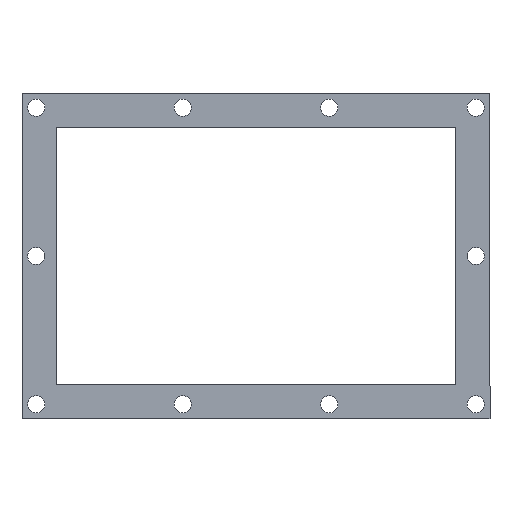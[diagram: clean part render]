
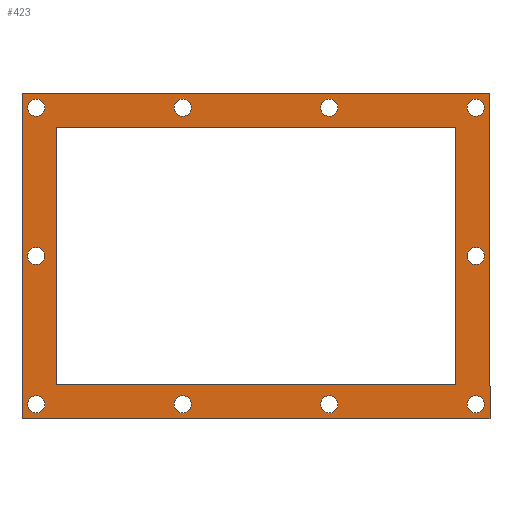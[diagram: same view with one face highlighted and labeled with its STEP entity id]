
A CAD part, top view. The second image highlights one B-rep face of the part: STEP entity #423.
In plain terms, the highlighted planar face has unit normal (0, 0, 1).
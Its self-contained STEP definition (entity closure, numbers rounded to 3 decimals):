
#15=FACE_BOUND('',#86,.T.);
#16=FACE_BOUND('',#87,.T.);
#17=FACE_BOUND('',#88,.T.);
#18=FACE_BOUND('',#89,.T.);
#19=FACE_BOUND('',#90,.T.);
#20=FACE_BOUND('',#91,.T.);
#21=FACE_BOUND('',#92,.T.);
#22=FACE_BOUND('',#93,.T.);
#23=FACE_BOUND('',#94,.T.);
#24=FACE_BOUND('',#95,.T.);
#25=FACE_BOUND('',#96,.T.);
#45=PLANE('',#483);
#65=FACE_OUTER_BOUND('',#85,.T.);
#85=EDGE_LOOP('',(#359,#360,#361,#362));
#86=EDGE_LOOP('',(#363));
#87=EDGE_LOOP('',(#364));
#88=EDGE_LOOP('',(#365,#366,#367,#368));
#89=EDGE_LOOP('',(#369));
#90=EDGE_LOOP('',(#370));
#91=EDGE_LOOP('',(#371));
#92=EDGE_LOOP('',(#372));
#93=EDGE_LOOP('',(#373));
#94=EDGE_LOOP('',(#374));
#95=EDGE_LOOP('',(#375));
#96=EDGE_LOOP('',(#376));
#119=LINE('',#657,#153);
#122=LINE('',#663,#156);
#125=LINE('',#669,#159);
#128=LINE('',#673,#162);
#133=LINE('',#693,#167);
#136=LINE('',#699,#170);
#139=LINE('',#705,#173);
#142=LINE('',#709,#176);
#153=VECTOR('',#547,10.);
#156=VECTOR('',#552,10.);
#159=VECTOR('',#557,10.);
#162=VECTOR('',#562,10.);
#167=VECTOR('',#581,10.);
#170=VECTOR('',#586,10.);
#173=VECTOR('',#591,10.);
#176=VECTOR('',#596,10.);
#177=CIRCLE('',#446,3.);
#179=CIRCLE('',#449,3.);
#181=CIRCLE('',#452,3.);
#183=CIRCLE('',#455,3.);
#185=CIRCLE('',#458,3.);
#187=CIRCLE('',#461,3.);
#189=CIRCLE('',#464,3.);
#191=CIRCLE('',#467,3.);
#193=CIRCLE('',#474,3.);
#195=CIRCLE('',#477,3.);
#197=VERTEX_POINT('',#603);
#199=VERTEX_POINT('',#609);
#201=VERTEX_POINT('',#615);
#203=VERTEX_POINT('',#621);
#205=VERTEX_POINT('',#627);
#207=VERTEX_POINT('',#633);
#209=VERTEX_POINT('',#639);
#211=VERTEX_POINT('',#645);
#215=VERTEX_POINT('',#654);
#216=VERTEX_POINT('',#656);
#218=VERTEX_POINT('',#662);
#220=VERTEX_POINT('',#668);
#221=VERTEX_POINT('',#675);
#223=VERTEX_POINT('',#681);
#227=VERTEX_POINT('',#690);
#228=VERTEX_POINT('',#692);
#230=VERTEX_POINT('',#698);
#232=VERTEX_POINT('',#704);
#233=EDGE_CURVE('',#197,#197,#177,.T.);
#236=EDGE_CURVE('',#199,#199,#179,.T.);
#239=EDGE_CURVE('',#201,#201,#181,.T.);
#242=EDGE_CURVE('',#203,#203,#183,.T.);
#245=EDGE_CURVE('',#205,#205,#185,.T.);
#248=EDGE_CURVE('',#207,#207,#187,.T.);
#251=EDGE_CURVE('',#209,#209,#189,.T.);
#254=EDGE_CURVE('',#211,#211,#191,.T.);
#259=EDGE_CURVE('',#216,#215,#119,.T.);
#262=EDGE_CURVE('',#218,#216,#122,.T.);
#265=EDGE_CURVE('',#220,#218,#125,.T.);
#268=EDGE_CURVE('',#215,#220,#128,.T.);
#269=EDGE_CURVE('',#221,#221,#193,.T.);
#272=EDGE_CURVE('',#223,#223,#195,.T.);
#277=EDGE_CURVE('',#228,#227,#133,.T.);
#280=EDGE_CURVE('',#230,#228,#136,.T.);
#283=EDGE_CURVE('',#232,#230,#139,.T.);
#286=EDGE_CURVE('',#227,#232,#142,.T.);
#359=ORIENTED_EDGE('',*,*,#286,.T.);
#360=ORIENTED_EDGE('',*,*,#283,.T.);
#361=ORIENTED_EDGE('',*,*,#280,.T.);
#362=ORIENTED_EDGE('',*,*,#277,.T.);
#363=ORIENTED_EDGE('',*,*,#272,.T.);
#364=ORIENTED_EDGE('',*,*,#269,.T.);
#365=ORIENTED_EDGE('',*,*,#268,.T.);
#366=ORIENTED_EDGE('',*,*,#265,.T.);
#367=ORIENTED_EDGE('',*,*,#262,.T.);
#368=ORIENTED_EDGE('',*,*,#259,.T.);
#369=ORIENTED_EDGE('',*,*,#254,.T.);
#370=ORIENTED_EDGE('',*,*,#251,.T.);
#371=ORIENTED_EDGE('',*,*,#248,.T.);
#372=ORIENTED_EDGE('',*,*,#245,.T.);
#373=ORIENTED_EDGE('',*,*,#242,.T.);
#374=ORIENTED_EDGE('',*,*,#239,.T.);
#375=ORIENTED_EDGE('',*,*,#236,.T.);
#376=ORIENTED_EDGE('',*,*,#233,.T.);
#423=ADVANCED_FACE('',(#65,#15,#16,#17,#18,#19,#20,#21,#22,#23,#24,#25),
#45,.T.);
#446=AXIS2_PLACEMENT_3D('',#604,#489,#490);
#449=AXIS2_PLACEMENT_3D('',#610,#496,#497);
#452=AXIS2_PLACEMENT_3D('',#616,#503,#504);
#455=AXIS2_PLACEMENT_3D('',#622,#510,#511);
#458=AXIS2_PLACEMENT_3D('',#628,#517,#518);
#461=AXIS2_PLACEMENT_3D('',#634,#524,#525);
#464=AXIS2_PLACEMENT_3D('',#640,#531,#532);
#467=AXIS2_PLACEMENT_3D('',#646,#538,#539);
#474=AXIS2_PLACEMENT_3D('',#676,#565,#566);
#477=AXIS2_PLACEMENT_3D('',#682,#572,#573);
#483=AXIS2_PLACEMENT_3D('',#710,#597,#598);
#489=DIRECTION('center_axis',(0.,0.,-1.));
#490=DIRECTION('ref_axis',(-1.,0.,0.));
#496=DIRECTION('center_axis',(0.,0.,-1.));
#497=DIRECTION('ref_axis',(-1.,0.,0.));
#503=DIRECTION('center_axis',(0.,0.,-1.));
#504=DIRECTION('ref_axis',(-1.,0.,0.));
#510=DIRECTION('center_axis',(0.,0.,-1.));
#511=DIRECTION('ref_axis',(-1.,0.,0.));
#517=DIRECTION('center_axis',(0.,0.,-1.));
#518=DIRECTION('ref_axis',(-1.,0.,0.));
#524=DIRECTION('center_axis',(0.,0.,-1.));
#525=DIRECTION('ref_axis',(-1.,0.,0.));
#531=DIRECTION('center_axis',(0.,0.,-1.));
#532=DIRECTION('ref_axis',(-1.,0.,0.));
#538=DIRECTION('center_axis',(0.,0.,-1.));
#539=DIRECTION('ref_axis',(-1.,0.,0.));
#547=DIRECTION('',(0.,-1.,0.));
#552=DIRECTION('',(1.,0.,0.));
#557=DIRECTION('',(0.,1.,0.));
#562=DIRECTION('',(-1.,0.,0.));
#565=DIRECTION('center_axis',(0.,0.,-1.));
#566=DIRECTION('ref_axis',(-1.,0.,0.));
#572=DIRECTION('center_axis',(0.,0.,-1.));
#573=DIRECTION('ref_axis',(-1.,0.,0.));
#581=DIRECTION('',(1.,0.,0.));
#586=DIRECTION('',(0.,-1.,0.));
#591=DIRECTION('',(-1.,0.,0.));
#596=DIRECTION('',(0.,1.,0.));
#597=DIRECTION('center_axis',(0.,0.,1.));
#598=DIRECTION('ref_axis',(1.,0.,0.));
#603=CARTESIAN_POINT('',(-74.,-52.,1.));
#604=CARTESIAN_POINT('Origin',(-77.,-52.,1.));
#609=CARTESIAN_POINT('',(-74.,0.,1.));
#610=CARTESIAN_POINT('Origin',(-77.,0.,1.));
#615=CARTESIAN_POINT('',(-74.,52.,1.));
#616=CARTESIAN_POINT('Origin',(-77.,52.,1.));
#621=CARTESIAN_POINT('',(-22.665,52.,1.));
#622=CARTESIAN_POINT('Origin',(-25.665,52.,1.));
#627=CARTESIAN_POINT('',(28.665,52.,1.));
#628=CARTESIAN_POINT('Origin',(25.665,52.,1.));
#633=CARTESIAN_POINT('',(80.,52.,1.));
#634=CARTESIAN_POINT('Origin',(77.,52.,1.));
#639=CARTESIAN_POINT('',(80.,0.,1.));
#640=CARTESIAN_POINT('Origin',(77.,0.,1.));
#645=CARTESIAN_POINT('',(80.,-52.,1.));
#646=CARTESIAN_POINT('Origin',(77.,-52.,1.));
#654=CARTESIAN_POINT('',(70.,-45.,1.));
#656=CARTESIAN_POINT('',(70.,45.,1.));
#657=CARTESIAN_POINT('',(70.,45.,1.));
#662=CARTESIAN_POINT('',(-70.,45.,1.));
#663=CARTESIAN_POINT('',(-70.,45.,1.));
#668=CARTESIAN_POINT('',(-70.,-45.,1.));
#669=CARTESIAN_POINT('',(-70.,-45.,1.));
#673=CARTESIAN_POINT('',(70.,-45.,1.));
#675=CARTESIAN_POINT('',(-22.665,-52.,1.));
#676=CARTESIAN_POINT('Origin',(-25.665,-52.,1.));
#681=CARTESIAN_POINT('',(28.665,-52.,1.));
#682=CARTESIAN_POINT('Origin',(25.665,-52.,1.));
#690=CARTESIAN_POINT('',(82.,-57.,1.));
#692=CARTESIAN_POINT('',(-82.,-57.,1.));
#693=CARTESIAN_POINT('',(-82.,-57.,1.));
#698=CARTESIAN_POINT('',(-82.,57.,1.));
#699=CARTESIAN_POINT('',(-82.,57.,1.));
#704=CARTESIAN_POINT('',(82.,57.,1.));
#705=CARTESIAN_POINT('',(82.,57.,1.));
#709=CARTESIAN_POINT('',(82.,-57.,1.));
#710=CARTESIAN_POINT('Origin',(0.,0.,
1.));
